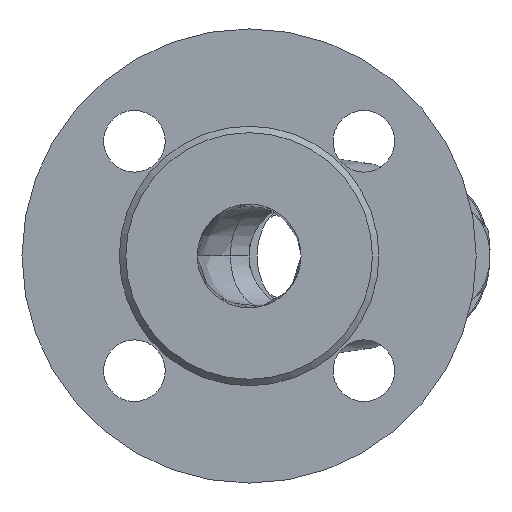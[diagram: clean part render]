
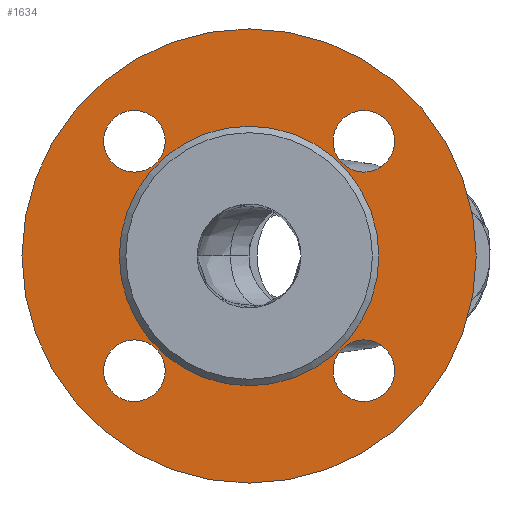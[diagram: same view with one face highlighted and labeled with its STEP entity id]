
A CAD part, left-side view. The second image highlights one B-rep face of the part: STEP entity #1634.
In plain terms, the highlighted planar face has unit normal (-1, 0, 0).
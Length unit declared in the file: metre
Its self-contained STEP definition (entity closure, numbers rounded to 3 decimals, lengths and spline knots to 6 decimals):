
#94=FACE_BOUND('',#450,.T.);
#95=FACE_BOUND('',#451,.T.);
#96=FACE_BOUND('',#452,.T.);
#97=FACE_BOUND('',#453,.T.);
#98=FACE_BOUND('',#454,.T.);
#124=PLANE('',#1835);
#334=FACE_OUTER_BOUND('',#449,.T.);
#449=EDGE_LOOP('',(#1383));
#450=EDGE_LOOP('',(#1384));
#451=EDGE_LOOP('',(#1385));
#452=EDGE_LOOP('',(#1386));
#453=EDGE_LOOP('',(#1387));
#454=EDGE_LOOP('',(#1388));
#507=CIRCLE('',#1742,0.0095);
#509=CIRCLE('',#1745,0.0095);
#511=CIRCLE('',#1748,0.0095);
#513=CIRCLE('',#1751,0.0095);
#556=CIRCLE('',#1834,0.04);
#557=CIRCLE('',#1836,0.07);
#688=VERTEX_POINT('',#3535);
#690=VERTEX_POINT('',#3541);
#692=VERTEX_POINT('',#3547);
#694=VERTEX_POINT('',#3553);
#803=VERTEX_POINT('',#13256);
#804=VERTEX_POINT('',#13260);
#850=EDGE_CURVE('',#688,#688,#507,.T.);
#853=EDGE_CURVE('',#690,#690,#509,.T.);
#856=EDGE_CURVE('',#692,#692,#511,.T.);
#859=EDGE_CURVE('',#694,#694,#513,.T.);
#1020=EDGE_CURVE('',#803,#803,#556,.T.);
#1022=EDGE_CURVE('',#804,#804,#557,.T.);
#1383=ORIENTED_EDGE('',*,*,#1022,.T.);
#1384=ORIENTED_EDGE('',*,*,#1020,.F.);
#1385=ORIENTED_EDGE('',*,*,#859,.T.);
#1386=ORIENTED_EDGE('',*,*,#856,.T.);
#1387=ORIENTED_EDGE('',*,*,#853,.T.);
#1388=ORIENTED_EDGE('',*,*,#850,.T.);
#1634=ADVANCED_FACE('',(#334,#94,#95,#96,#97,#98),#124,.F.);
#1742=AXIS2_PLACEMENT_3D('',#3537,#1907,#1908);
#1745=AXIS2_PLACEMENT_3D('',#3543,#1914,#1915);
#1748=AXIS2_PLACEMENT_3D('',#3549,#1921,#1922);
#1751=AXIS2_PLACEMENT_3D('',#3555,#1928,#1929);
#1834=AXIS2_PLACEMENT_3D('',#13257,#2124,#2125);
#1835=AXIS2_PLACEMENT_3D('',#13259,#2127,#2128);
#1836=AXIS2_PLACEMENT_3D('',#13261,#2129,#2130);
#1907=DIRECTION('center_axis',(1.,0.,0.));
#1908=DIRECTION('ref_axis',(0.,0.,-1.));
#1914=DIRECTION('center_axis',(1.,0.,0.));
#1915=DIRECTION('ref_axis',(0.,0.,-1.));
#1921=DIRECTION('center_axis',(1.,0.,0.));
#1922=DIRECTION('ref_axis',(0.,0.,-1.));
#1928=DIRECTION('center_axis',(1.,0.,0.));
#1929=DIRECTION('ref_axis',(0.,0.,-1.));
#2124=DIRECTION('center_axis',(-1.,0.,0.));
#2125=DIRECTION('ref_axis',(0.,0.,1.));
#2127=DIRECTION('center_axis',(1.,0.,0.));
#2128=DIRECTION('ref_axis',(0.,1.,0.));
#2129=DIRECTION('center_axis',(-1.,0.,0.));
#2130=DIRECTION('ref_axis',(0.,0.,1.));
#3535=CARTESIAN_POINT('',(-0.088,0.035355,0.025855));
#3537=CARTESIAN_POINT('Origin',(-0.088,0.035355,0.035355));
#3541=CARTESIAN_POINT('',(-0.088,-0.035355,0.025855));
#3543=CARTESIAN_POINT('Origin',(-0.088,-0.035355,0.035355));
#3547=CARTESIAN_POINT('',(-0.088,-0.035355,-0.044855));
#3549=CARTESIAN_POINT('Origin',(-0.088,-0.035355,-0.035355));
#3553=CARTESIAN_POINT('',(-0.088,0.035355,-0.044855));
#3555=CARTESIAN_POINT('Origin',(-0.088,0.035355,-0.035355));
#13256=CARTESIAN_POINT('',(-0.088,0.,-0.04));
#13257=CARTESIAN_POINT('Origin',(-0.088,0.,0.));
#13259=CARTESIAN_POINT('Origin',(-0.088,0.04,0.));
#13260=CARTESIAN_POINT('',(-0.088,0.,-0.07));
#13261=CARTESIAN_POINT('Origin',(-0.088,0.,0.));
